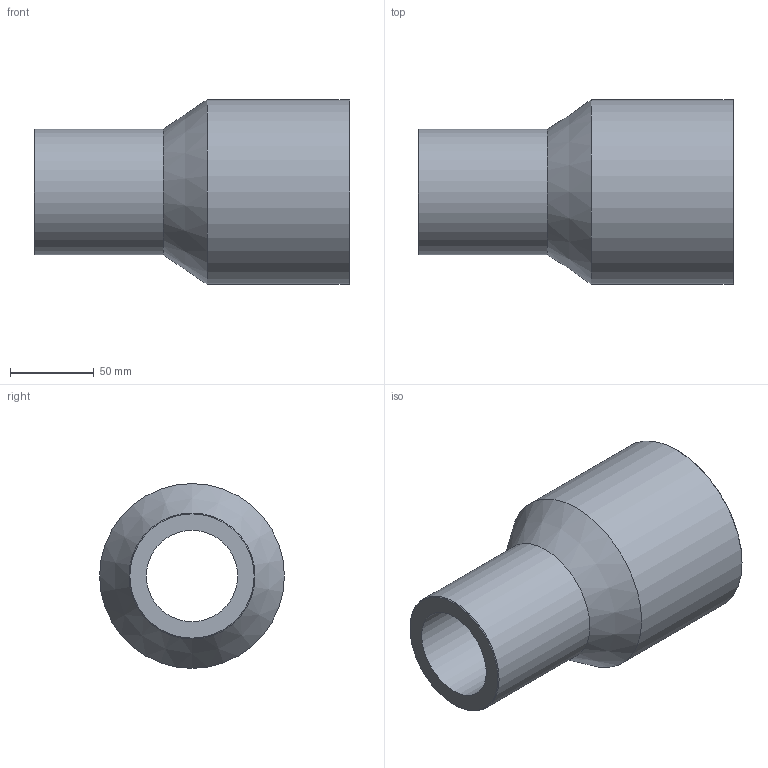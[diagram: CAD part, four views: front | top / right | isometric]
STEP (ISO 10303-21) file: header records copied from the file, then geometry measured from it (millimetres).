
FILE_DESCRIPTION(/* description */ ('Unknown'),/* implementation_level */ '2;1');
FILE_NAME(/* name */ 'RP110075H',/* time_stamp */ '2022-10-14T15:32:15+02:00',/* author */ ('Unknown'),/* organization */ ('Unknown'),/* preprocessor_version */ 'ST-DEVELOPER v18.102',/* originating_system */ 'Solid Edge',/* authorisation */ 'Unknown');
FILE_SCHEMA (('AUTOMOTIVE_DESIGN {1 0 10303 214 3 1 1}'));
Length unit declared in the file: millimetre
Products named in the file (1): RP110075H
Bounding box: 188 x 110 x 110 mm (x, y, z)
Volume: 640199 mm3; surface area: 103136.8 mm2
Topology: 1 solids, 1 shells, 10 faces, 19 edges, 11 vertices
Faces by surface type: cylinder 4, cone 4, plane 2
Full cylindrical faces by diameter (mm): 54.4 x1, 75 x1, 79.8 x1, 110 x1
Entity records: 238 total; most frequent: DIRECTION 42, CARTESIAN_POINT 31, AXIS2_PLACEMENT_3D 21, ORIENTED_EDGE 20, EDGE_LOOP 20, FACE_BOUND 20, EDGE_CURVE 10, VERTEX_POINT 10
